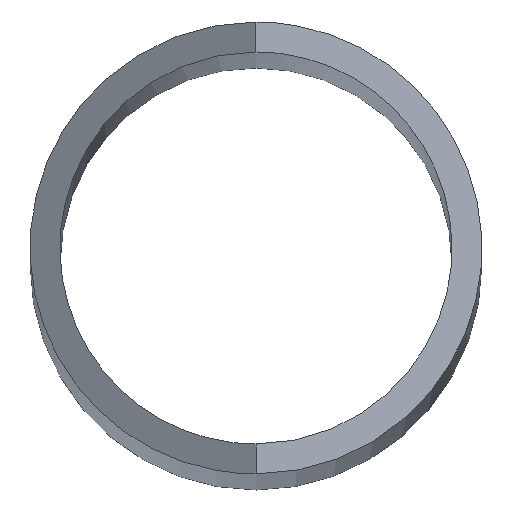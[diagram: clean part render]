
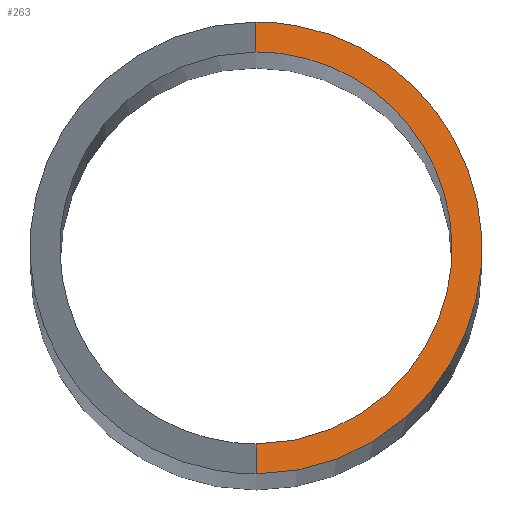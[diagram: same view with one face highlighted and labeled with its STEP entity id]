
A CAD part, top view. The second image highlights one B-rep face of the part: STEP entity #263.
In plain terms, the highlighted planar face has unit normal (0.502, 0, 0.865).
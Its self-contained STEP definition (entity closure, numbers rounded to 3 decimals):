
#22 = VERTEX_POINT('',#23);
#23 = CARTESIAN_POINT('',(0.,2975.85,988.));
#32 = CYLINDRICAL_SURFACE('',#33,24.15);
#33 = AXIS2_PLACEMENT_3D('',#34,#35,#36);
#34 = CARTESIAN_POINT('',(0.,3000.,988.));
#35 = DIRECTION('',(0.,0.,1.));
#36 = DIRECTION('',(0.,-1.,0.));
#49 = EDGE_CURVE('',#22,#50,#52,.T.);
#50 = VERTEX_POINT('',#51);
#51 = CARTESIAN_POINT('',(0.,3024.15,
    988.));
#52 = SURFACE_CURVE('',#53,(#58,#71),.PCURVE_S1.);
#53 = ELLIPSE('',#54,27.917,24.15);
#54 = AXIS2_PLACEMENT_3D('',#55,#56,#57);
#55 = CARTESIAN_POINT('',(0.,3000.,988.));
#56 = DIRECTION('',(0.502,0.,0.865));
#57 = DIRECTION('',(-0.865,0.,0.502));
#58 = PCURVE('',#32,#59);
#59 = DEFINITIONAL_REPRESENTATION('',(#60),#70);
#60 = B_SPLINE_CURVE_WITH_KNOTS('',8,(#61,#62,#63,#64,#65,#66,#67,#68,
    #69),.UNSPECIFIED.,.F.,.F.,(9,9),(1.571,4.712),
  .PIECEWISE_BEZIER_KNOTS.);
#61 = CARTESIAN_POINT('',(-6.283,0.));
#62 = CARTESIAN_POINT('',(-5.89,-5.5));
#63 = CARTESIAN_POINT('',(-5.498,-11.));
#64 = CARTESIAN_POINT('',(-5.105,-15.207));
#65 = CARTESIAN_POINT('',(-4.712,-16.832));
#66 = CARTESIAN_POINT('',(-4.32,-15.207));
#67 = CARTESIAN_POINT('',(-3.927,-11.));
#68 = CARTESIAN_POINT('',(-3.534,-5.5));
#69 = CARTESIAN_POINT('',(-3.142,0.));
#70 = ( GEOMETRIC_REPRESENTATION_CONTEXT(2) 
PARAMETRIC_REPRESENTATION_CONTEXT() REPRESENTATION_CONTEXT('2D SPACE',''
  ) );
#71 = PCURVE('',#72,#77);
#72 = PLANE('',#73);
#73 = AXIS2_PLACEMENT_3D('',#74,#75,#76);
#74 = CARTESIAN_POINT('',(24.15,2975.85,
    973.994));
#75 = DIRECTION('',(0.502,0.,0.865));
#76 = DIRECTION('',(-0.865,0.,0.502));
#77 = DEFINITIONAL_REPRESENTATION('',(#78),#82);
#78 = ELLIPSE('',#79,27.917,24.15);
#79 = AXIS2_PLACEMENT_2D('',#80,#81);
#80 = CARTESIAN_POINT('',(27.917,-24.15));
#81 = DIRECTION('',(1.,0.));
#82 = ( GEOMETRIC_REPRESENTATION_CONTEXT(2) 
PARAMETRIC_REPRESENTATION_CONTEXT() REPRESENTATION_CONTEXT('2D SPACE',''
  ) );
#105 = PLANE('',#106);
#106 = AXIS2_PLACEMENT_3D('',#107,#108,#109);
#107 = CARTESIAN_POINT('',(-20.95,3000.,975.85));
#108 = DIRECTION('',(-0.502,0.,0.865));
#109 = DIRECTION('',(0.,1.,0.));
#175 = CYLINDRICAL_SURFACE('',#176,20.95);
#176 = AXIS2_PLACEMENT_3D('',#177,#178,#179);
#177 = CARTESIAN_POINT('',(0.,3000.,988.));
#178 = DIRECTION('',(0.,0.,1.));
#179 = DIRECTION('',(0.,-1.,0.));
#190 = VERTEX_POINT('',#191);
#191 = CARTESIAN_POINT('',(0.,3020.95,
    988.));
#192 = VERTEX_POINT('',#193);
#193 = CARTESIAN_POINT('',(0.,2979.05,988.)
  );
#221 = EDGE_CURVE('',#190,#50,#222,.T.);
#222 = SURFACE_CURVE('',#223,(#227,#234),.PCURVE_S1.);
#223 = LINE('',#224,#225);
#224 = CARTESIAN_POINT('',(0.,2975.85,
    988.));
#225 = VECTOR('',#226,1.);
#226 = DIRECTION('',(0.,1.,0.));
#227 = PCURVE('',#105,#228);
#228 = DEFINITIONAL_REPRESENTATION('',(#229),#233);
#229 = LINE('',#230,#231);
#230 = CARTESIAN_POINT('',(-24.15,-24.218));
#231 = VECTOR('',#232,1.);
#232 = DIRECTION('',(1.,0.));
#233 = ( GEOMETRIC_REPRESENTATION_CONTEXT(2) 
PARAMETRIC_REPRESENTATION_CONTEXT() REPRESENTATION_CONTEXT('2D SPACE',''
  ) );
#234 = PCURVE('',#72,#235);
#235 = DEFINITIONAL_REPRESENTATION('',(#236),#240);
#236 = LINE('',#237,#238);
#237 = CARTESIAN_POINT('',(27.917,0.));
#238 = VECTOR('',#239,1.);
#239 = DIRECTION('',(0.,-1.));
#240 = ( GEOMETRIC_REPRESENTATION_CONTEXT(2) 
PARAMETRIC_REPRESENTATION_CONTEXT() REPRESENTATION_CONTEXT('2D SPACE',''
  ) );
#243 = EDGE_CURVE('',#22,#192,#244,.T.);
#244 = SURFACE_CURVE('',#245,(#249,#256),.PCURVE_S1.);
#245 = LINE('',#246,#247);
#246 = CARTESIAN_POINT('',(0.,2975.85,
    988.));
#247 = VECTOR('',#248,1.);
#248 = DIRECTION('',(0.,1.,0.));
#249 = PCURVE('',#105,#250);
#250 = DEFINITIONAL_REPRESENTATION('',(#251),#255);
#251 = LINE('',#252,#253);
#252 = CARTESIAN_POINT('',(-24.15,-24.218));
#253 = VECTOR('',#254,1.);
#254 = DIRECTION('',(1.,0.));
#255 = ( GEOMETRIC_REPRESENTATION_CONTEXT(2) 
PARAMETRIC_REPRESENTATION_CONTEXT() REPRESENTATION_CONTEXT('2D SPACE',''
  ) );
#256 = PCURVE('',#72,#257);
#257 = DEFINITIONAL_REPRESENTATION('',(#258),#262);
#258 = LINE('',#259,#260);
#259 = CARTESIAN_POINT('',(27.917,0.));
#260 = VECTOR('',#261,1.);
#261 = DIRECTION('',(0.,-1.));
#262 = ( GEOMETRIC_REPRESENTATION_CONTEXT(2) 
PARAMETRIC_REPRESENTATION_CONTEXT() REPRESENTATION_CONTEXT('2D SPACE',''
  ) );
#263 = ADVANCED_FACE('',(#264),#72,.T.);
#264 = FACE_BOUND('',#265,.T.);
#265 = EDGE_LOOP('',(#266,#267,#268,#269));
#266 = ORIENTED_EDGE('',*,*,#243,.F.);
#267 = ORIENTED_EDGE('',*,*,#49,.T.);
#268 = ORIENTED_EDGE('',*,*,#221,.F.);
#269 = ORIENTED_EDGE('',*,*,#270,.F.);
#270 = EDGE_CURVE('',#192,#190,#271,.T.);
#271 = SURFACE_CURVE('',#272,(#277,#284),.PCURVE_S1.);
#272 = ELLIPSE('',#273,24.218,20.95);
#273 = AXIS2_PLACEMENT_3D('',#274,#275,#276);
#274 = CARTESIAN_POINT('',(0.,3000.,988.));
#275 = DIRECTION('',(0.502,0.,0.865));
#276 = DIRECTION('',(-0.865,0.,0.502));
#277 = PCURVE('',#72,#278);
#278 = DEFINITIONAL_REPRESENTATION('',(#279),#283);
#279 = ELLIPSE('',#280,24.218,20.95);
#280 = AXIS2_PLACEMENT_2D('',#281,#282);
#281 = CARTESIAN_POINT('',(27.917,-24.15));
#282 = DIRECTION('',(1.,0.));
#283 = ( GEOMETRIC_REPRESENTATION_CONTEXT(2) 
PARAMETRIC_REPRESENTATION_CONTEXT() REPRESENTATION_CONTEXT('2D SPACE',''
  ) );
#284 = PCURVE('',#175,#285);
#285 = DEFINITIONAL_REPRESENTATION('',(#286),#296);
#286 = B_SPLINE_CURVE_WITH_KNOTS('',8,(#287,#288,#289,#290,#291,#292,
    #293,#294,#295),.UNSPECIFIED.,.F.,.F.,(9,9),(1.571,
    4.712),.PIECEWISE_BEZIER_KNOTS.);
#287 = CARTESIAN_POINT('',(-6.283,0.));
#288 = CARTESIAN_POINT('',(-5.89,-4.771));
#289 = CARTESIAN_POINT('',(-5.498,-9.543));
#290 = CARTESIAN_POINT('',(-5.105,-13.192));
#291 = CARTESIAN_POINT('',(-4.712,-14.602));
#292 = CARTESIAN_POINT('',(-4.32,-13.192));
#293 = CARTESIAN_POINT('',(-3.927,-9.543));
#294 = CARTESIAN_POINT('',(-3.534,-4.771));
#295 = CARTESIAN_POINT('',(-3.142,0.));
#296 = ( GEOMETRIC_REPRESENTATION_CONTEXT(2) 
PARAMETRIC_REPRESENTATION_CONTEXT() REPRESENTATION_CONTEXT('2D SPACE',''
  ) );
